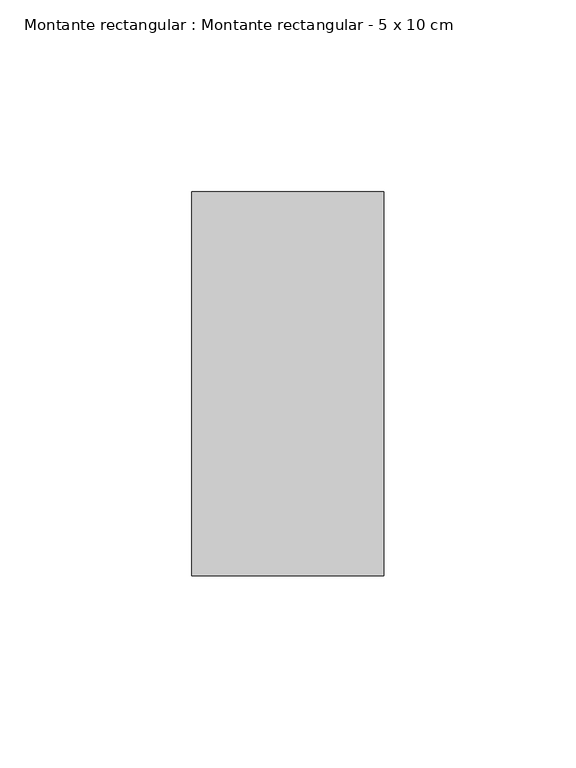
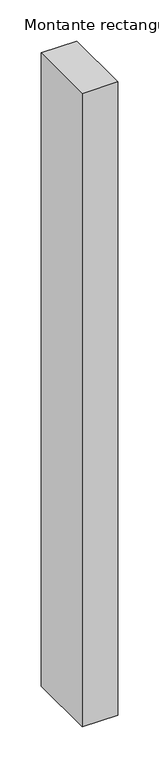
"""IFC4 building model written with IfcOpenShell, lengths in millimetres: member geometry, Montante rectangular : Montante rectangular - 5 x 10 cm."""

from ifc_helpers import new_model, si_unit, frame, origin, place, context, project, spatial, polyline, outline, extrude, source, transform, mapped, element, save


def montante_rectangular_montante_rectangular_5_x_10_cm_1fc875ae(model_context):
    return source(origin(), model_context, "Body", "SweptSolid", [
        extrude(outline(polyline([(-50.0, 50.0), (0.0, 50.0), (0.0, -50.0), (-50.0, -50.0), (-50.0, 50.0)])), frame((0.0, 0.0, -940.088625), z_axis=(0.0, 0.0, 1.0), x_axis=(1.0, 0.0, 0.0)), (0.0, 0.0, 1.0), 940.088625),
    ])


if __name__ == "__main__":
    model = new_model("IFC4")
    model_context = context("Model", 3, world=origin())
    ifc_project = project(units=[si_unit("LENGTHUNIT", "METRE", prefix="MILLI")], contexts=[model_context])
    site = spatial("IfcSite", under=ifc_project)
    building = spatial("IfcBuilding", under=site)
    placement = place(None, origin())
    montante_rectangular_montante_rectangular_5_x_10_cm_shape = montante_rectangular_montante_rectangular_5_x_10_cm_1fc875ae(model_context)
    element("IfcMember", 1, ObjectType="Montante rectangular : Montante rectangular - 5 x 10 cm", at=placement, inside=building, context=model_context, shape_type="MappedRepresentation", body=[
        mapped(montante_rectangular_montante_rectangular_5_x_10_cm_shape, transform((0.0, 0.0, 0.0), x_axis=(1.0, 0.0, 0.0), y_axis=(0.0, 1.0, 0.0), z_axis=(0.0, 0.0, 1.0))),
    ])
    save(model, "model.ifc")
